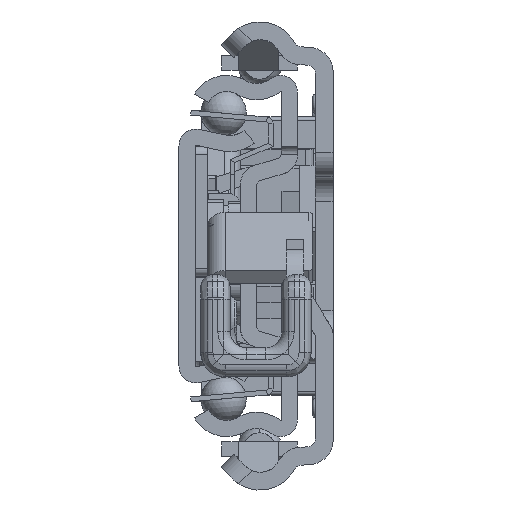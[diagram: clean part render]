
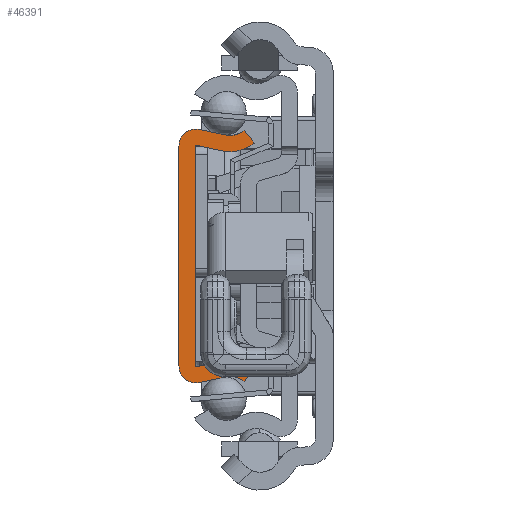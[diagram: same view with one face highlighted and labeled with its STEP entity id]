
A CAD part, left-side view. The second image highlights one B-rep face of the part: STEP entity #46391.
In plain terms, the highlighted planar face has unit normal (-1, 0, 0).
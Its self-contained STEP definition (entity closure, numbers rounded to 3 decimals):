
#42078=CARTESIAN_POINT('',(0.,-6.29,-17.65));
#42079=DIRECTION('',(-1.,0.,0.));
#42080=DIRECTION('',(0.,-0.629,0.778));
#42081=AXIS2_PLACEMENT_3D('',#42078,#42079,#42080);
#42083=DIRECTION('',(0.,0.977,-0.213));
#42084=VECTOR('',#42083,3.218);
#42085=CARTESIAN_POINT('',(0.,-5.692,-14.915));
#42086=LINE('',#42085,#42084);
#42087=CARTESIAN_POINT('',(0.,-2.1,-13.55));
#42088=DIRECTION('',(1.,0.,0.));
#42089=DIRECTION('',(0.,-0.213,-0.977));
#42090=AXIS2_PLACEMENT_3D('',#42087,#42088,#42089);
#42092=DIRECTION('',(0.,0.,1.));
#42093=VECTOR('',#42092,27.1);
#42094=CARTESIAN_POINT('',(0.,0.,-13.55));
#42095=LINE('',#42094,#42093);
#42096=CARTESIAN_POINT('',(0.,-2.1,13.55));
#42097=DIRECTION('',(1.,0.,0.));
#42098=DIRECTION('',(0.,1.,0.));
#42099=AXIS2_PLACEMENT_3D('',#42096,#42097,#42098);
#42101=DIRECTION('',(0.,-0.977,-0.213));
#42102=VECTOR('',#42101,3.218);
#42103=CARTESIAN_POINT('',(0.,-2.548,15.602));
#42104=LINE('',#42103,#42102);
#42105=CARTESIAN_POINT('',(0.,-6.29,17.65));
#42106=DIRECTION('',(-1.,0.,0.));
#42107=DIRECTION('',(0.,0.213,-0.977));
#42108=AXIS2_PLACEMENT_3D('',#42105,#42106,#42107);
#42110=DIRECTION('',(0.,-0.629,-0.778));
#42111=VECTOR('',#42110,2.);
#42112=CARTESIAN_POINT('',(0.,-8.05,15.472));
#42113=LINE('',#42112,#42111);
#42114=CARTESIAN_POINT('',(0.,-6.29,17.65));
#42115=DIRECTION('',(1.,0.,0.));
#42116=DIRECTION('',(0.,-0.629,-0.778));
#42117=AXIS2_PLACEMENT_3D('',#42114,#42115,#42116);
#42119=DIRECTION('',(0.,0.977,0.213));
#42120=VECTOR('',#42119,3.218);
#42121=CARTESIAN_POINT('',(0.,-5.265,12.961));
#42122=LINE('',#42121,#42120);
#42123=CARTESIAN_POINT('',(0.,-2.1,13.55));
#42124=DIRECTION('',(-1.,0.,0.));
#42125=DIRECTION('',(0.,-0.213,0.977));
#42126=AXIS2_PLACEMENT_3D('',#42123,#42124,#42125);
#42128=DIRECTION('',(0.,0.,-1.));
#42129=VECTOR('',#42128,27.1);
#42130=CARTESIAN_POINT('',(0.,-2.,13.55));
#42131=LINE('',#42130,#42129);
#42132=CARTESIAN_POINT('',(0.,-2.1,-13.55));
#42133=DIRECTION('',(-1.,0.,0.));
#42134=DIRECTION('',(0.,1.,0.));
#42135=AXIS2_PLACEMENT_3D('',#42132,#42133,#42134);
#42137=DIRECTION('',(0.,-0.977,0.213));
#42138=VECTOR('',#42137,3.218);
#42139=CARTESIAN_POINT('',(0.,-2.121,-13.648));
#42140=LINE('',#42139,#42138);
#42141=CARTESIAN_POINT('',(0.,-6.29,-17.65));
#42142=DIRECTION('',(1.,0.,0.));
#42143=DIRECTION('',(0.,0.213,0.977));
#42144=AXIS2_PLACEMENT_3D('',#42141,#42142,#42143);
#42146=DIRECTION('',(0.,0.629,-0.778));
#42147=VECTOR('',#42146,2.);
#42148=CARTESIAN_POINT('',(0.,-9.307,-13.917));
#42149=LINE('',#42148,#42147);
#45586=CARTESIAN_POINT('',(0.,-8.05,-15.472));
#45587=CARTESIAN_POINT('',(0.,-5.692,-14.915));
#45588=VERTEX_POINT('',#45586);
#45589=VERTEX_POINT('',#45587);
#45590=CARTESIAN_POINT('',(0.,-2.548,-15.602));
#45591=VERTEX_POINT('',#45590);
#45592=CARTESIAN_POINT('',(0.,0.,-13.55));
#45593=VERTEX_POINT('',#45592);
#45594=CARTESIAN_POINT('',(0.,0.,13.55));
#45595=VERTEX_POINT('',#45594);
#45596=CARTESIAN_POINT('',(0.,-2.548,15.602));
#45597=VERTEX_POINT('',#45596);
#45598=CARTESIAN_POINT('',(0.,-5.692,14.915));
#45599=VERTEX_POINT('',#45598);
#45600=CARTESIAN_POINT('',(0.,-8.05,15.472));
#45601=VERTEX_POINT('',#45600);
#45602=CARTESIAN_POINT('',(0.,-9.307,13.917));
#45603=VERTEX_POINT('',#45602);
#45604=CARTESIAN_POINT('',(0.,-5.265,12.961));
#45605=VERTEX_POINT('',#45604);
#45606=CARTESIAN_POINT('',(0.,-2.121,13.648));
#45607=VERTEX_POINT('',#45606);
#45608=CARTESIAN_POINT('',(0.,-2.,13.55));
#45609=VERTEX_POINT('',#45608);
#45610=CARTESIAN_POINT('',(0.,-2.,-13.55));
#45611=VERTEX_POINT('',#45610);
#45612=CARTESIAN_POINT('',(0.,-2.121,-13.648));
#45613=VERTEX_POINT('',#45612);
#45614=CARTESIAN_POINT('',(0.,-5.265,-12.961));
#45615=VERTEX_POINT('',#45614);
#45616=CARTESIAN_POINT('',(0.,-9.307,-13.917));
#45617=VERTEX_POINT('',#45616);
#46352=CARTESIAN_POINT('',(0.,0.,0.));
#46353=DIRECTION('',(1.,0.,0.));
#46354=DIRECTION('',(0.,-1.,0.));
#46355=AXIS2_PLACEMENT_3D('',#46352,#46353,#46354);
#46356=PLANE('',#46355);
#46358=ORIENTED_EDGE('',*,*,#46357,.T.);
#46360=ORIENTED_EDGE('',*,*,#46359,.T.);
#46362=ORIENTED_EDGE('',*,*,#46361,.T.);
#46364=ORIENTED_EDGE('',*,*,#46363,.T.);
#46366=ORIENTED_EDGE('',*,*,#46365,.T.);
#46368=ORIENTED_EDGE('',*,*,#46367,.T.);
#46370=ORIENTED_EDGE('',*,*,#46369,.T.);
#46372=ORIENTED_EDGE('',*,*,#46371,.T.);
#46374=ORIENTED_EDGE('',*,*,#46373,.T.);
#46376=ORIENTED_EDGE('',*,*,#46375,.T.);
#46378=ORIENTED_EDGE('',*,*,#46377,.T.);
#46380=ORIENTED_EDGE('',*,*,#46379,.T.);
#46382=ORIENTED_EDGE('',*,*,#46381,.T.);
#46384=ORIENTED_EDGE('',*,*,#46383,.T.);
#46386=ORIENTED_EDGE('',*,*,#46385,.T.);
#46388=ORIENTED_EDGE('',*,*,#46387,.T.);
#46389=EDGE_LOOP('',(#46358,#46360,#46362,#46364,#46366,#46368,#46370,#46372,
#46374,#46376,#46378,#46380,#46382,#46384,#46386,#46388));
#46390=FACE_OUTER_BOUND('',#46389,.F.);
#42082=CIRCLE('',#42081,2.8);
#42091=CIRCLE('',#42090,2.1);
#42100=CIRCLE('',#42099,2.1);
#42109=CIRCLE('',#42108,2.8);
#42118=CIRCLE('',#42117,4.8);
#42127=CIRCLE('',#42126,0.1);
#42136=CIRCLE('',#42135,0.1);
#42145=CIRCLE('',#42144,4.8);
#46357=EDGE_CURVE('',#45588,#45589,#42082,.T.);
#46359=EDGE_CURVE('',#45589,#45591,#42086,.T.);
#46361=EDGE_CURVE('',#45591,#45593,#42091,.T.);
#46363=EDGE_CURVE('',#45593,#45595,#42095,.T.);
#46365=EDGE_CURVE('',#45595,#45597,#42100,.T.);
#46367=EDGE_CURVE('',#45597,#45599,#42104,.T.);
#46369=EDGE_CURVE('',#45599,#45601,#42109,.T.);
#46371=EDGE_CURVE('',#45601,#45603,#42113,.T.);
#46373=EDGE_CURVE('',#45603,#45605,#42118,.T.);
#46375=EDGE_CURVE('',#45605,#45607,#42122,.T.);
#46377=EDGE_CURVE('',#45607,#45609,#42127,.T.);
#46379=EDGE_CURVE('',#45609,#45611,#42131,.T.);
#46381=EDGE_CURVE('',#45611,#45613,#42136,.T.);
#46383=EDGE_CURVE('',#45613,#45615,#42140,.T.);
#46385=EDGE_CURVE('',#45615,#45617,#42145,.T.);
#46387=EDGE_CURVE('',#45617,#45588,#42149,.T.);
#46391=ADVANCED_FACE('',(#46390),#46356,.F.);
